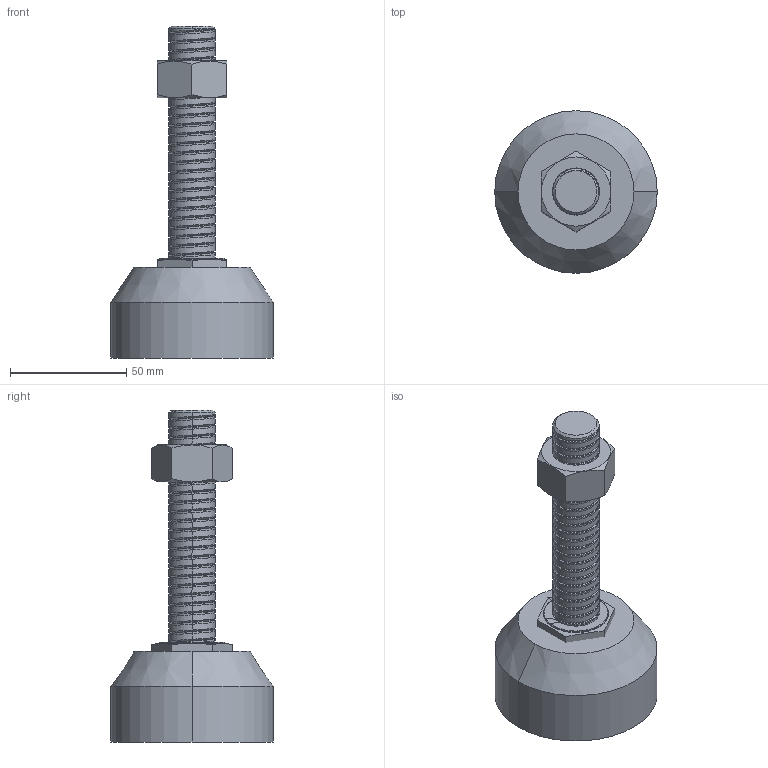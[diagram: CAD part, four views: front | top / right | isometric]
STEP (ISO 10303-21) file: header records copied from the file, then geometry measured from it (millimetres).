
FILE_DESCRIPTION (( 'STEP AP203' ), '1' );
FILE_NAME ('F-101-3-5-L.STEP', '2015-11-23T03:08:26', ( '' ), ( '' ), 'SwSTEP 2.0', 'SolidWorks 2014', '' );
FILE_SCHEMA (( 'CONFIG_CONTROL_DESIGN' ));
Length unit declared in the file: millimetre
Products named in the file (4): M20螺帽-1; F-101-3-5-L; 65圓腳座-43; DT-M20X100L-12調整螺絲-1
Assembly tree (3 placements, depth 2):
  F-101-3-5-L
    65圓腳座-43
    DT-M20X100L-12調整螺絲-1
    M20螺帽-1
Bounding box: 70 x 70 x 143 mm (x, y, z)
Volume: 187324.4 mm3; surface area: 34138.5 mm2
Topology: 3 solids, 3 shells, 159 faces, 407 edges, 259 vertices
Faces by surface type: cylinder 76, cone 49, plane 24, bspline 10
Entity records: 13295 total; most frequent: CARTESIAN_POINT 9388, ORIENTED_EDGE 814, DIRECTION 678, EDGE_CURVE 407, AXIS2_PLACEMENT_3D 270, VERTEX_POINT 259, EDGE_LOOP 166, FACE_OUTER_BOUND 159
